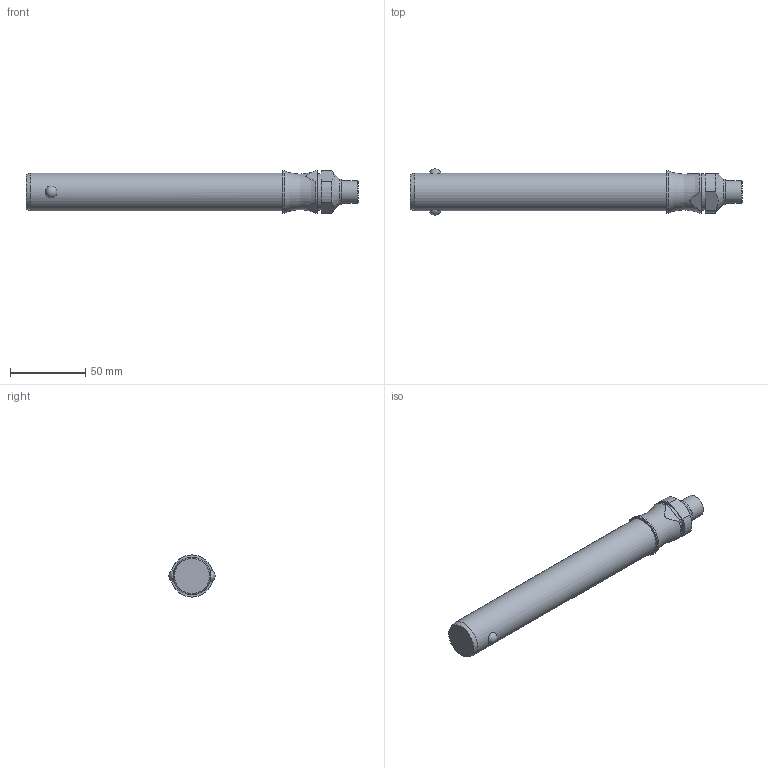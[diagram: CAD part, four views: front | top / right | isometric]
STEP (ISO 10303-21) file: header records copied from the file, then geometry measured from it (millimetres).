
FILE_DESCRIPTION( ( 'STEP AP203' ), '1' );
FILE_NAME( 'C:/Temp/Ganter_Step_05_03_2020/data/3_1/gn113_3/Stainless Steel-Ball lock pin GN 113.3-25-150 (deactivated).stp', '2020-03-12T08:19:14', ( 'License CC BY-ND 4.0' ), ( 'CADENAS' ), ' ', 'PARTsolutions', ' ' );
FILE_SCHEMA( ( 'CONFIG_CONTROL_DESIGN' ) );
Length unit declared in the file: millimetre
Products named in the file (1): _Stainless Steel-Ball lock pin GN 113.3-25-150 (deactivated)
Bounding box: 220.6 x 30.75 x 28 mm (x, y, z)
Volume: 104569.9 mm3; surface area: 18176.9 mm2
Topology: 1 solids, 1 shells, 29 faces, 62 edges, 40 vertices
Faces by surface type: plane 11, cylinder 11, cone 4, sphere 2, torus 1
Full cylindrical faces by diameter (mm): 15 x1, 17 x1, 24 x1, 25 x1, 28 x1
Entity records: 1006 total; most frequent: CARTESIAN_POINT 376, DIRECTION 126, ORIENTED_EDGE 100, AXIS2_PLACEMENT_3D 54, EDGE_CURVE 50, EDGE_LOOP 44, VERTEX_POINT 38, FACE_OUTER_BOUND 35
